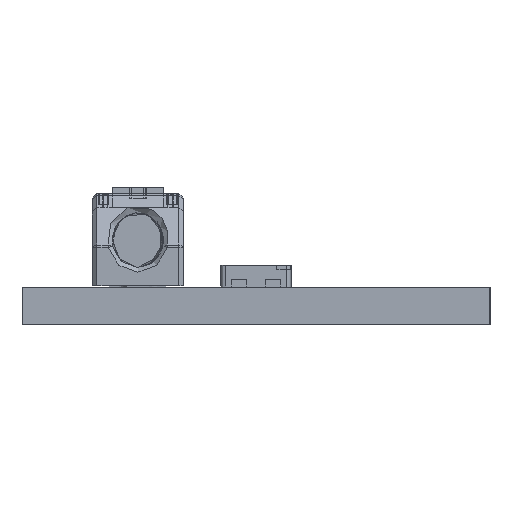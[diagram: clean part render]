
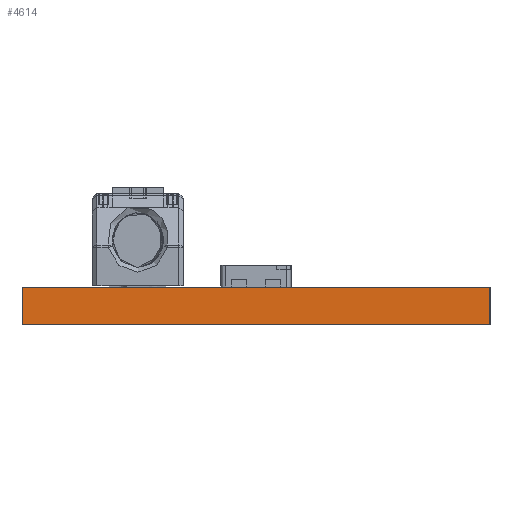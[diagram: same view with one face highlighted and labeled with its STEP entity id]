
A CAD part, left-side view. The second image highlights one B-rep face of the part: STEP entity #4614.
In plain terms, the highlighted planar face has unit normal (-1, 0, 0).
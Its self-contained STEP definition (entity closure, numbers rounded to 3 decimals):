
#4244=FACE_OUTER_BOUND('',#5436,.T.);
#4614=ADVANCED_FACE('',(#4244),#4987,.F.);
#4987=PLANE('',#11407);
#5436=EDGE_LOOP('',(#6219,#6220,#6221,#6222));
#6219=ORIENTED_EDGE('',*,*,#8843,.T.);
#6220=ORIENTED_EDGE('',*,*,#8940,.F.);
#6221=ORIENTED_EDGE('',*,*,#8664,.F.);
#6222=ORIENTED_EDGE('',*,*,#8968,.T.);
#7970=VERTEX_POINT('',#14376);
#7971=VERTEX_POINT('',#14378);
#8149=VERTEX_POINT('',#14735);
#8150=VERTEX_POINT('',#14737);
#8664=EDGE_CURVE('',#7970,#7971,#9699,.T.);
#8843=EDGE_CURVE('',#8150,#8149,#9822,.T.);
#8940=EDGE_CURVE('',#7971,#8149,#9897,.T.);
#8968=EDGE_CURVE('',#7970,#8150,#9925,.T.);
#9699=LINE('',#14377,#10513);
#9822=LINE('',#14736,#10636);
#9897=LINE('',#14917,#10711);
#9925=LINE('',#14960,#10739);
#10513=VECTOR('',#12086,1.);
#10636=VECTOR('',#12323,1.);
#10711=VECTOR('',#12468,1.);
#10739=VECTOR('',#12526,1.);
#11407=AXIS2_PLACEMENT_3D('',#14962,#12529,#12530);
#12086=DIRECTION('',(0.,1.,0.));
#12323=DIRECTION('',(0.,1.,0.));
#12468=DIRECTION('',(0.,0.,1.));
#12526=DIRECTION('',(0.,0.,1.));
#12529=DIRECTION('',(1.,0.,0.));
#12530=DIRECTION('',(0.,0.,-1.));
#14376=CARTESIAN_POINT('',(-725.,0.,-1.6));
#14377=CARTESIAN_POINT('',(-725.,0.,-1.6));
#14378=CARTESIAN_POINT('',(-725.,20.,-1.6));
#14735=CARTESIAN_POINT('',(-725.,20.,0.));
#14736=CARTESIAN_POINT('',(-725.,0.,0.));
#14737=CARTESIAN_POINT('',(-725.,0.,0.));
#14917=CARTESIAN_POINT('',(-725.,20.,-1.6));
#14960=CARTESIAN_POINT('',(-725.,0.,-1.6));
#14962=CARTESIAN_POINT('',(-725.,0.,-1.6));
